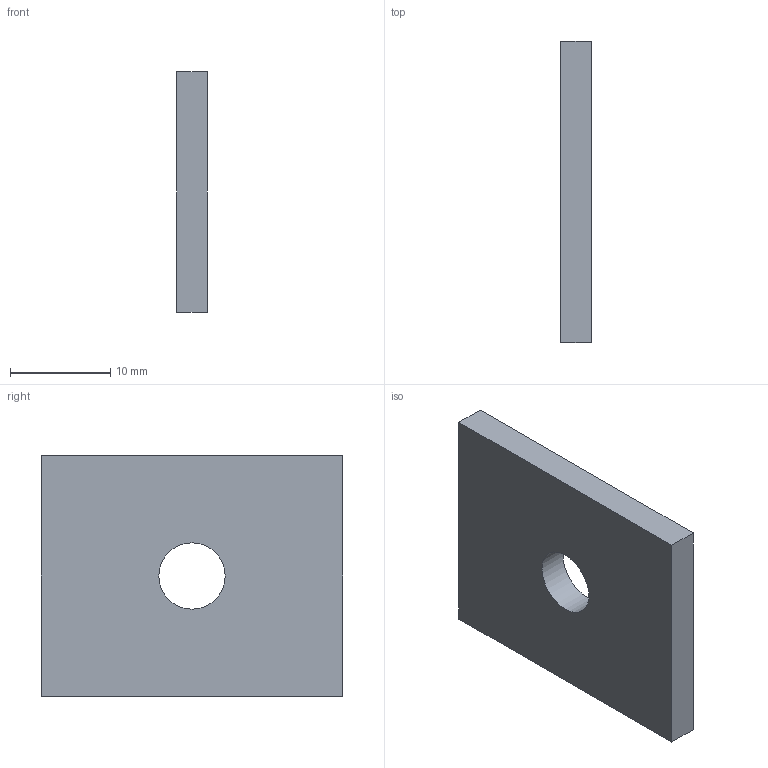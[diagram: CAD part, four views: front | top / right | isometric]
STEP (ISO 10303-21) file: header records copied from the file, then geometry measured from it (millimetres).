
FILE_DESCRIPTION(('Open CASCADE Model'),'2;1');
FILE_NAME('Open CASCADE Shape Model','2026-10-25T05:18:02',('Author'),( 'Open CASCADE'),'Open CASCADE STEP processor 7.9','Open CASCADE 7.9' ,'Unknown');
FILE_SCHEMA(('AUTOMOTIVE_DESIGN { 1 0 10303 214 1 1 1 1 }'));
Length unit declared in the file: millimetre
Products named in the file (1): Open CASCADE STEP translator 7.9 127
Bounding box: 3 x 30 x 24 mm (x, y, z)
Volume: 2057.4 mm3; surface area: 1757.8 mm2
Topology: 1 solids, 1 shells, 7 faces, 15 edges, 10 vertices
Faces by surface type: plane 6, cylinder 1
Full cylindrical faces by diameter (mm): 6.6 x1
Entity records: 400 total; most frequent: CARTESIAN_POINT 63, DIRECTION 63, LINE 41, VECTOR 41, ORIENTED_EDGE 30, PCURVE 30, DEFINITIONAL_REPRESENTATION 30, EDGE_CURVE 15
